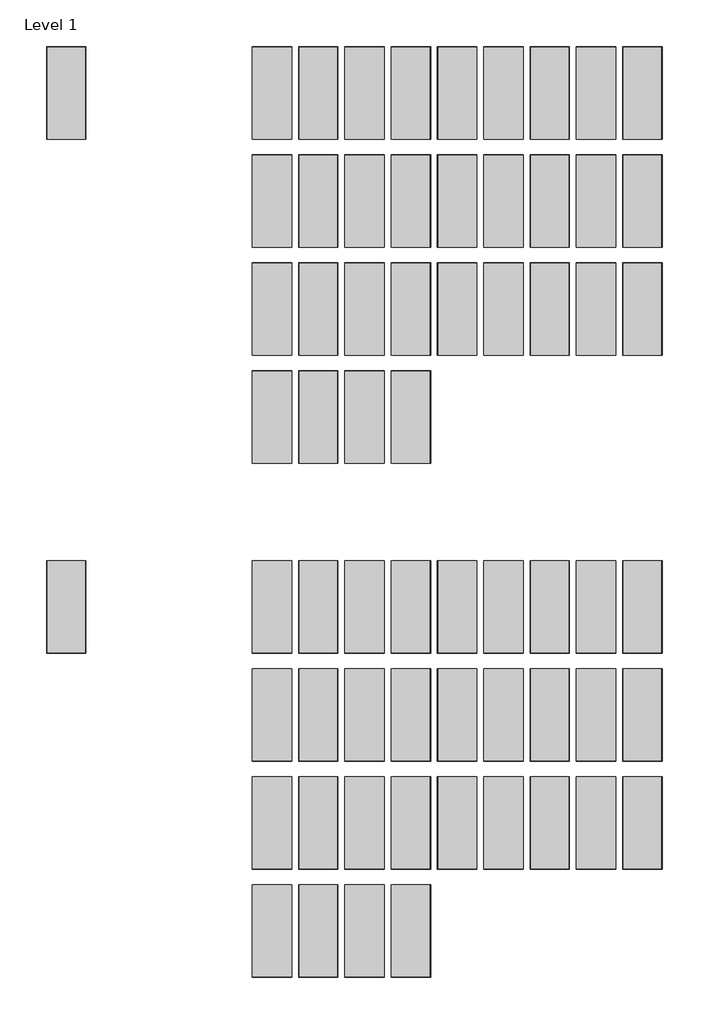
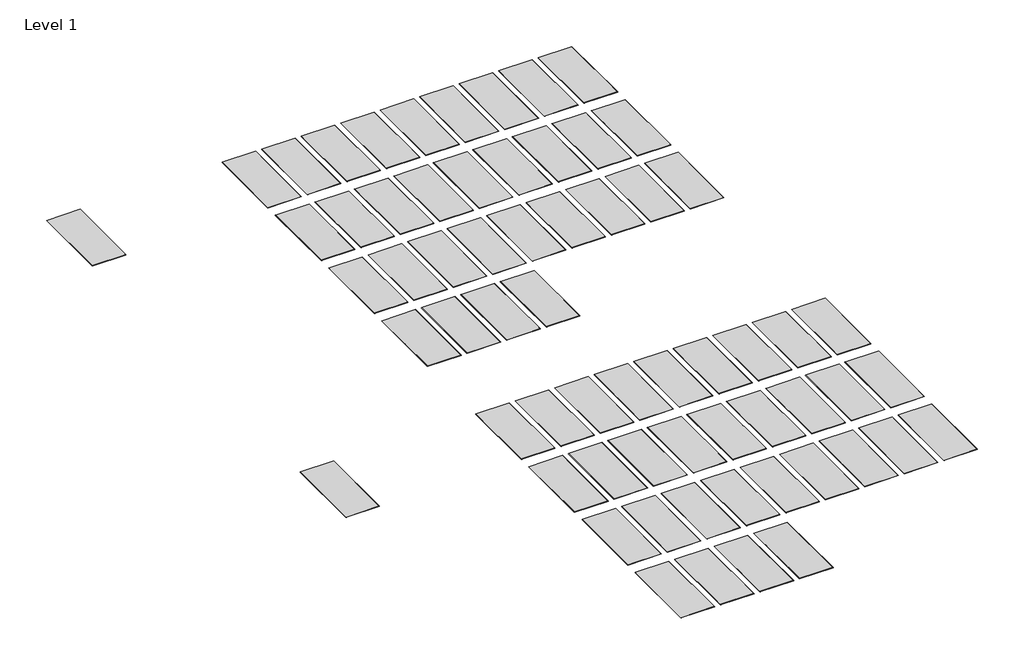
# One storey: 64 proxies.
"""IFC4 building model written with IfcOpenShell, lengths in millimetres."""

from ifc_helpers import new_model, si_unit, origin, place, context, project, spatial, transform, mapped, element, save
from components import stucco_a_101_frost_12_mm_5309bba6

model = new_model("IFC4")

# Units and contexts
model_context = context("Model", 3, world=origin())
ifc_project = project(units=[si_unit("LENGTHUNIT", "METRE", prefix="MILLI")], contexts=[model_context])

# Site, building, storey
site = spatial("IfcSite", under=ifc_project)
building = spatial("IfcBuilding", under=site)
storey = spatial("IfcBuildingStorey", under=building, Name="Level 1", Elevation=0.0)

# Proxies
placement = place(None, origin())
stucco_a_101_frost_12_mm_shape = stucco_a_101_frost_12_mm_5309bba6(model_context)
element("IfcBuildingElementProxy", 1, Name="Wall-Panel-Kirei_USA-EchoLine-Stucco_Panels : Stucco A - 108 Sunshine - 12 mm", ObjectType="Wall-Panel-Kirei_USA-EchoLine-Stucco_Panels : Stucco A - 108 Sunshine - 12 mm", at=placement, inside=storey, context=model_context, shape_type="MappedRepresentation", body=[
    mapped(stucco_a_101_frost_12_mm_shape, transform((1981.2, -18592.8, 0.0), x_axis=(1.0, 0.0, 0.0), y_axis=(0.0, 1.0, 0.0), z_axis=(0.0, 0.0, 1.0))),
])
element("IfcBuildingElementProxy", 2, Name="Wall-Panel-Kirei_USA-EchoLine-Stucco_Panels : Stucco A - 167 Cinnamon - 12 mm", ObjectType="Wall-Panel-Kirei_USA-EchoLine-Stucco_Panels : Stucco A - 167 Cinnamon - 12 mm", at=placement, inside=storey, context=model_context, shape_type="MappedRepresentation", body=[
    mapped(stucco_a_101_frost_12_mm_shape, transform((4724.4, -18592.8, 0.0), x_axis=(1.0, 0.0, 0.0), y_axis=(0.0, 1.0, 0.0), z_axis=(0.0, 0.0, 1.0))),
])
element("IfcBuildingElementProxy", 3, Name="Wall-Panel-Kirei_USA-EchoLine-Stucco_Panels : Stucco A - 274 Orchid - 12 mm", ObjectType="Wall-Panel-Kirei_USA-EchoLine-Stucco_Panels : Stucco A - 274 Orchid - 12 mm", at=placement, inside=storey, context=model_context, shape_type="MappedRepresentation", body=[
    mapped(stucco_a_101_frost_12_mm_shape, transform((8839.2, -18592.8, 0.0), x_axis=(1.0, 0.0, 0.0), y_axis=(0.0, 1.0, 0.0), z_axis=(0.0, 0.0, 1.0))),
])
element("IfcBuildingElementProxy", 4, Name="Wall-Panel-Kirei_USA-EchoLine-Stucco_Panels : Stucco A - 295 Mandarin - 12 mm", ObjectType="Wall-Panel-Kirei_USA-EchoLine-Stucco_Panels : Stucco A - 295 Mandarin - 12 mm", at=placement, inside=storey, context=model_context, shape_type="MappedRepresentation", body=[
    mapped(stucco_a_101_frost_12_mm_shape, transform((11582.4, -18592.8, 0.0), x_axis=(1.0, 0.0, 0.0), y_axis=(0.0, 1.0, 0.0), z_axis=(0.0, 0.0, 1.0))),
])
element("IfcBuildingElementProxy", 5, Name="Wall-Panel-Kirei_USA-EchoLine-Stucco_Panels : Stucco A - 330 Ivy - 12 mm", ObjectType="Wall-Panel-Kirei_USA-EchoLine-Stucco_Panels : Stucco A - 330 Ivy - 12 mm", at=placement, inside=storey, context=model_context, shape_type="MappedRepresentation", body=[
    mapped(stucco_a_101_frost_12_mm_shape, transform((609.6, -21793.2, 0.0), x_axis=(1.0, 0.0, 0.0), y_axis=(0.0, 1.0, 0.0), z_axis=(0.0, 0.0, 1.0))),
])
element("IfcBuildingElementProxy", 6, Name="Wall-Panel-Kirei_USA-EchoLine-Stucco_Panels : Stucco A - 338 Jade - 12 mm", ObjectType="Wall-Panel-Kirei_USA-EchoLine-Stucco_Panels : Stucco A - 338 Jade - 12 mm", at=placement, inside=storey, context=model_context, shape_type="MappedRepresentation", body=[
    mapped(stucco_a_101_frost_12_mm_shape, transform((1981.2, -21793.2, 0.0), x_axis=(1.0, 0.0, 0.0), y_axis=(0.0, 1.0, 0.0), z_axis=(0.0, 0.0, 1.0))),
])
element("IfcBuildingElementProxy", 7, Name="Wall-Panel-Kirei_USA-EchoLine-Stucco_Panels : Stucco A - 349 Vineyard - 12 mm", ObjectType="Wall-Panel-Kirei_USA-EchoLine-Stucco_Panels : Stucco A - 349 Vineyard - 12 mm", at=placement, inside=storey, context=model_context, shape_type="MappedRepresentation", body=[
    mapped(stucco_a_101_frost_12_mm_shape, transform((3352.8, -21793.2, 0.0), x_axis=(1.0, 0.0, 0.0), y_axis=(0.0, 1.0, 0.0), z_axis=(0.0, 0.0, 1.0))),
])
element("IfcBuildingElementProxy", 8, Name="Wall-Panel-Kirei_USA-EchoLine-Stucco_Panels : Stucco A - 551 Duck Egg - 12 mm", ObjectType="Wall-Panel-Kirei_USA-EchoLine-Stucco_Panels : Stucco A - 551 Duck Egg - 12 mm", at=placement, inside=storey, context=model_context, shape_type="MappedRepresentation", body=[
    mapped(stucco_a_101_frost_12_mm_shape, transform((10210.8, -24993.6, 0.0), x_axis=(1.0, 0.0, 0.0), y_axis=(0.0, 1.0, 0.0), z_axis=(0.0, 0.0, 1.0))),
])
element("IfcBuildingElementProxy", 9, Name="Wall-Panel-Kirei_USA-EchoLine-Stucco_Panels : Stucco A - 579 Pistachio - 12 mm", ObjectType="Wall-Panel-Kirei_USA-EchoLine-Stucco_Panels : Stucco A - 579 Pistachio - 12 mm", at=placement, inside=storey, context=model_context, shape_type="MappedRepresentation", body=[
    mapped(stucco_a_101_frost_12_mm_shape, transform((11582.4, -24993.6, 0.0), x_axis=(1.0, 0.0, 0.0), y_axis=(0.0, 1.0, 0.0), z_axis=(0.0, 0.0, 1.0))),
])
element("IfcBuildingElementProxy", 10, Name="Wall-Panel-Kirei_USA-EchoLine-Stucco_Panels : Stucco A - 633 Pacific - 12 mm", ObjectType="Wall-Panel-Kirei_USA-EchoLine-Stucco_Panels : Stucco A - 633 Pacific - 12 mm", at=placement, inside=storey, context=model_context, shape_type="MappedRepresentation", body=[
    mapped(stucco_a_101_frost_12_mm_shape, transform((1981.4491146, -28194.0, 0.0), x_axis=(1.0, 0.0, 0.0), y_axis=(0.0, 1.0, 0.0), z_axis=(0.0, 0.0, 1.0))),
])
element("IfcBuildingElementProxy", 11, Name="Wall-Panel-Kirei_USA-EchoLine-Stucco_Panels : Stucco A - 660 Coronet - 12 mm", ObjectType="Wall-Panel-Kirei_USA-EchoLine-Stucco_Panels : Stucco A - 660 Coronet - 12 mm", at=placement, inside=storey, context=model_context, shape_type="MappedRepresentation", body=[
    mapped(stucco_a_101_frost_12_mm_shape, transform((3353.0491146, -28194.0, 0.0), x_axis=(1.0, 0.0, 0.0), y_axis=(0.0, 1.0, 0.0), z_axis=(0.0, 0.0, 1.0))),
])
element("IfcBuildingElementProxy", 12, Name="Wall-Panel-Kirei_USA-EchoLine-Stucco_Panels : Stucco B - 108 Sunshine - 12 mm", ObjectType="Wall-Panel-Kirei_USA-EchoLine-Stucco_Panels : Stucco B - 108 Sunshine - 12 mm", at=placement, inside=storey, context=model_context, shape_type="MappedRepresentation", body=[
    mapped(stucco_a_101_frost_12_mm_shape, transform((1981.2, -33832.8, 0.0), x_axis=(1.0, 0.0, 0.0), y_axis=(0.0, 1.0, 0.0), z_axis=(0.0, 0.0, 1.0))),
])
element("IfcBuildingElementProxy", 13, Name="Wall-Panel-Kirei_USA-EchoLine-Stucco_Panels : Stucco B - 167 Cinnamon - 12 mm", ObjectType="Wall-Panel-Kirei_USA-EchoLine-Stucco_Panels : Stucco B - 167 Cinnamon - 12 mm", at=placement, inside=storey, context=model_context, shape_type="MappedRepresentation", body=[
    mapped(stucco_a_101_frost_12_mm_shape, transform((4724.4, -33832.8, 0.0), x_axis=(1.0, 0.0, 0.0), y_axis=(0.0, 1.0, 0.0), z_axis=(0.0, 0.0, 1.0))),
])
element("IfcBuildingElementProxy", 14, Name="Wall-Panel-Kirei_USA-EchoLine-Stucco_Panels : Stucco B - 274 Orchid - 12 mm", ObjectType="Wall-Panel-Kirei_USA-EchoLine-Stucco_Panels : Stucco B - 274 Orchid - 12 mm", at=placement, inside=storey, context=model_context, shape_type="MappedRepresentation", body=[
    mapped(stucco_a_101_frost_12_mm_shape, transform((8839.2, -33832.8, 0.0), x_axis=(1.0, 0.0, 0.0), y_axis=(0.0, 1.0, 0.0), z_axis=(0.0, 0.0, 1.0))),
])
element("IfcBuildingElementProxy", 15, Name="Wall-Panel-Kirei_USA-EchoLine-Stucco_Panels : Stucco B - 295 Mandarin - 12 mm", ObjectType="Wall-Panel-Kirei_USA-EchoLine-Stucco_Panels : Stucco B - 295 Mandarin - 12 mm", at=placement, inside=storey, context=model_context, shape_type="MappedRepresentation", body=[
    mapped(stucco_a_101_frost_12_mm_shape, transform((11582.4, -33832.8, 0.0), x_axis=(1.0, 0.0, 0.0), y_axis=(0.0, 1.0, 0.0), z_axis=(0.0, 0.0, 1.0))),
])
element("IfcBuildingElementProxy", 16, Name="Wall-Panel-Kirei_USA-EchoLine-Stucco_Panels : Stucco B - 330 Ivy - 12 mm", ObjectType="Wall-Panel-Kirei_USA-EchoLine-Stucco_Panels : Stucco B - 330 Ivy - 12 mm", at=placement, inside=storey, context=model_context, shape_type="MappedRepresentation", body=[
    mapped(stucco_a_101_frost_12_mm_shape, transform((609.6, -37033.2, 0.0), x_axis=(1.0, 0.0, 0.0), y_axis=(0.0, 1.0, 0.0), z_axis=(0.0, 0.0, 1.0))),
])
element("IfcBuildingElementProxy", 17, Name="Wall-Panel-Kirei_USA-EchoLine-Stucco_Panels : Stucco B - 338 Jade - 12 mm", ObjectType="Wall-Panel-Kirei_USA-EchoLine-Stucco_Panels : Stucco B - 338 Jade - 12 mm", at=placement, inside=storey, context=model_context, shape_type="MappedRepresentation", body=[
    mapped(stucco_a_101_frost_12_mm_shape, transform((1981.2, -37033.2, 0.0), x_axis=(1.0, 0.0, 0.0), y_axis=(0.0, 1.0, 0.0), z_axis=(0.0, 0.0, 1.0))),
])
element("IfcBuildingElementProxy", 18, Name="Wall-Panel-Kirei_USA-EchoLine-Stucco_Panels : Stucco B - 349 Vineyard - 12 mm", ObjectType="Wall-Panel-Kirei_USA-EchoLine-Stucco_Panels : Stucco B - 349 Vineyard - 12 mm", at=placement, inside=storey, context=model_context, shape_type="MappedRepresentation", body=[
    mapped(stucco_a_101_frost_12_mm_shape, transform((3352.8, -37033.2, 0.0), x_axis=(1.0, 0.0, 0.0), y_axis=(0.0, 1.0, 0.0), z_axis=(0.0, 0.0, 1.0))),
])
element("IfcBuildingElementProxy", 19, Name="Wall-Panel-Kirei_USA-EchoLine-Stucco_Panels : Stucco B - 551 Duck Egg - 12 mm", ObjectType="Wall-Panel-Kirei_USA-EchoLine-Stucco_Panels : Stucco B - 551 Duck Egg - 12 mm", at=placement, inside=storey, context=model_context, shape_type="MappedRepresentation", body=[
    mapped(stucco_a_101_frost_12_mm_shape, transform((10210.8, -40233.6, 0.0), x_axis=(1.0, 0.0, 0.0), y_axis=(0.0, 1.0, 0.0), z_axis=(0.0, 0.0, 1.0))),
])
element("IfcBuildingElementProxy", 20, Name="Wall-Panel-Kirei_USA-EchoLine-Stucco_Panels : Stucco B - 579 Pistachio - 12 mm", ObjectType="Wall-Panel-Kirei_USA-EchoLine-Stucco_Panels : Stucco B - 579 Pistachio - 12 mm", at=placement, inside=storey, context=model_context, shape_type="MappedRepresentation", body=[
    mapped(stucco_a_101_frost_12_mm_shape, transform((11582.4, -40233.6, 0.0), x_axis=(1.0, 0.0, 0.0), y_axis=(0.0, 1.0, 0.0), z_axis=(0.0, 0.0, 1.0))),
])
element("IfcBuildingElementProxy", 21, Name="Wall-Panel-Kirei_USA-EchoLine-Stucco_Panels : Stucco B - 633 Pacific - 12 mm", ObjectType="Wall-Panel-Kirei_USA-EchoLine-Stucco_Panels : Stucco B - 633 Pacific - 12 mm", at=placement, inside=storey, context=model_context, shape_type="MappedRepresentation", body=[
    mapped(stucco_a_101_frost_12_mm_shape, transform((1981.2, -43434.0, 0.0), x_axis=(1.0, 0.0, 0.0), y_axis=(0.0, 1.0, 0.0), z_axis=(0.0, 0.0, 1.0))),
])
element("IfcBuildingElementProxy", 22, Name="Wall-Panel-Kirei_USA-EchoLine-Stucco_Panels : Stucco B - 660 Coronet - 12 mm", ObjectType="Wall-Panel-Kirei_USA-EchoLine-Stucco_Panels : Stucco B - 660 Coronet - 12 mm", at=placement, inside=storey, context=model_context, shape_type="MappedRepresentation", body=[
    mapped(stucco_a_101_frost_12_mm_shape, transform((3352.8, -43434.0, 0.0), x_axis=(1.0, 0.0, 0.0), y_axis=(0.0, 1.0, 0.0), z_axis=(0.0, 0.0, 1.0))),
])
element("IfcBuildingElementProxy", 23, Name="Wall-Panel-Kirei_USA-EchoLine-Stucco_Panels : Stucco A - 101 Frost - 12 mm", ObjectType="Wall-Panel-Kirei_USA-EchoLine-Stucco_Panels : Stucco A - 101 Frost - 12 mm", at=placement, inside=storey, context=model_context, shape_type="MappedRepresentation", body=[
    mapped(stucco_a_101_frost_12_mm_shape, transform((609.6, -18592.8, 0.0), x_axis=(1.0, 0.0, 0.0), y_axis=(0.0, 1.0, 0.0), z_axis=(0.0, 0.0, 1.0))),
])
element("IfcBuildingElementProxy", 24, Name="Wall-Panel-Kirei_USA-EchoLine-Stucco_Panels : Stucco A - 101 Frost - 12 mm", ObjectType="Wall-Panel-Kirei_USA-EchoLine-Stucco_Panels : Stucco A - 101 Frost - 12 mm", at=placement, inside=storey, context=model_context, shape_type="MappedRepresentation", body=[
    mapped(stucco_a_101_frost_12_mm_shape, transform((-5486.4, -18592.8, 0.0), x_axis=(1.0, 0.0, 0.0), y_axis=(0.0, 1.0, 0.0), z_axis=(0.0, 0.0, 1.0))),
])
element("IfcBuildingElementProxy", 25, Name="Wall-Panel-Kirei_USA-EchoLine-Stucco_Panels : Stucco A - 124 Ochre - 12 mm", ObjectType="Wall-Panel-Kirei_USA-EchoLine-Stucco_Panels : Stucco A - 124 Ochre - 12 mm", at=placement, inside=storey, context=model_context, shape_type="MappedRepresentation", body=[
    mapped(stucco_a_101_frost_12_mm_shape, transform((3352.8, -18592.8, 0.0), x_axis=(1.0, 0.0, 0.0), y_axis=(0.0, 1.0, 0.0), z_axis=(0.0, 0.0, 1.0))),
])
element("IfcBuildingElementProxy", 26, Name="Wall-Panel-Kirei_USA-EchoLine-Stucco_Panels : Stucco A - 193 Rouge - 12 mm", ObjectType="Wall-Panel-Kirei_USA-EchoLine-Stucco_Panels : Stucco A - 193 Rouge - 12 mm", at=placement, inside=storey, context=model_context, shape_type="MappedRepresentation", body=[
    mapped(stucco_a_101_frost_12_mm_shape, transform((6096.0, -18592.8, 0.0), x_axis=(1.0, 0.0, 0.0), y_axis=(0.0, 1.0, 0.0), z_axis=(0.0, 0.0, 1.0))),
])
element("IfcBuildingElementProxy", 27, Name="Wall-Panel-Kirei_USA-EchoLine-Stucco_Panels : Stucco A - 269 Wine - 12 mm", ObjectType="Wall-Panel-Kirei_USA-EchoLine-Stucco_Panels : Stucco A - 269 Wine - 12 mm", at=placement, inside=storey, context=model_context, shape_type="MappedRepresentation", body=[
    mapped(stucco_a_101_frost_12_mm_shape, transform((7467.6, -18592.8, 0.0), x_axis=(1.0, 0.0, 0.0), y_axis=(0.0, 1.0, 0.0), z_axis=(0.0, 0.0, 1.0))),
])
element("IfcBuildingElementProxy", 28, Name="Wall-Panel-Kirei_USA-EchoLine-Stucco_Panels : Stucco A - 276 Lavender - 12 mm", ObjectType="Wall-Panel-Kirei_USA-EchoLine-Stucco_Panels : Stucco A - 276 Lavender - 12 mm", at=placement, inside=storey, context=model_context, shape_type="MappedRepresentation", body=[
    mapped(stucco_a_101_frost_12_mm_shape, transform((10210.8, -18592.8, 0.0), x_axis=(1.0, 0.0, 0.0), y_axis=(0.0, 1.0, 0.0), z_axis=(0.0, 0.0, 1.0))),
])
element("IfcBuildingElementProxy", 29, Name="Wall-Panel-Kirei_USA-EchoLine-Stucco_Panels : Stucco A - 365 Navy - 12 mm", ObjectType="Wall-Panel-Kirei_USA-EchoLine-Stucco_Panels : Stucco A - 365 Navy - 12 mm", at=placement, inside=storey, context=model_context, shape_type="MappedRepresentation", body=[
    mapped(stucco_a_101_frost_12_mm_shape, transform((4724.4, -21793.2, 0.0), x_axis=(1.0, 0.0, 0.0), y_axis=(0.0, 1.0, 0.0), z_axis=(0.0, 0.0, 1.0))),
])
element("IfcBuildingElementProxy", 30, Name="Wall-Panel-Kirei_USA-EchoLine-Stucco_Panels : Stucco A - 381 Lime Splice - 12 mm", ObjectType="Wall-Panel-Kirei_USA-EchoLine-Stucco_Panels : Stucco A - 381 Lime Splice - 12 mm", at=placement, inside=storey, context=model_context, shape_type="MappedRepresentation", body=[
    mapped(stucco_a_101_frost_12_mm_shape, transform((6096.0, -21793.2, 0.0), x_axis=(1.0, 0.0, 0.0), y_axis=(0.0, 1.0, 0.0), z_axis=(0.0, 0.0, 1.0))),
])
element("IfcBuildingElementProxy", 31, Name="Wall-Panel-Kirei_USA-EchoLine-Stucco_Panels : Stucco A - 384 Olive - 12 mm", ObjectType="Wall-Panel-Kirei_USA-EchoLine-Stucco_Panels : Stucco A - 384 Olive - 12 mm", at=placement, inside=storey, context=model_context, shape_type="MappedRepresentation", body=[
    mapped(stucco_a_101_frost_12_mm_shape, transform((7467.6, -21793.2, 0.0), x_axis=(1.0, 0.0, 0.0), y_axis=(0.0, 1.0, 0.0), z_axis=(0.0, 0.0, 1.0))),
])
element("IfcBuildingElementProxy", 32, Name="Wall-Panel-Kirei_USA-EchoLine-Stucco_Panels : Stucco A - 402 Pebble - 12 mm", ObjectType="Wall-Panel-Kirei_USA-EchoLine-Stucco_Panels : Stucco A - 402 Pebble - 12 mm", at=placement, inside=storey, context=model_context, shape_type="MappedRepresentation", body=[
    mapped(stucco_a_101_frost_12_mm_shape, transform((8839.2, -21793.2, 0.0), x_axis=(1.0, 0.0, 0.0), y_axis=(0.0, 1.0, 0.0), z_axis=(0.0, 0.0, 1.0))),
])
element("IfcBuildingElementProxy", 33, Name="Wall-Panel-Kirei_USA-EchoLine-Stucco_Panels : Stucco A - 442 Gray - 12 mm", ObjectType="Wall-Panel-Kirei_USA-EchoLine-Stucco_Panels : Stucco A - 442 Gray - 12 mm", at=placement, inside=storey, context=model_context, shape_type="MappedRepresentation", body=[
    mapped(stucco_a_101_frost_12_mm_shape, transform((10210.8, -21793.2, 0.0), x_axis=(1.0, 0.0, 0.0), y_axis=(0.0, 1.0, 0.0), z_axis=(0.0, 0.0, 1.0))),
])
element("IfcBuildingElementProxy", 34, Name="Wall-Panel-Kirei_USA-EchoLine-Stucco_Panels : Stucco A - 444 Smoke - 12 mm", ObjectType="Wall-Panel-Kirei_USA-EchoLine-Stucco_Panels : Stucco A - 444 Smoke - 12 mm", at=placement, inside=storey, context=model_context, shape_type="MappedRepresentation", body=[
    mapped(stucco_a_101_frost_12_mm_shape, transform((11582.4, -21793.2, 0.0), x_axis=(1.0, 0.0, 0.0), y_axis=(0.0, 1.0, 0.0), z_axis=(0.0, 0.0, 1.0))),
])
element("IfcBuildingElementProxy", 35, Name="Wall-Panel-Kirei_USA-EchoLine-Stucco_Panels : Stucco A - 447 Slate - 12 mm", ObjectType="Wall-Panel-Kirei_USA-EchoLine-Stucco_Panels : Stucco A - 447 Slate - 12 mm", at=placement, inside=storey, context=model_context, shape_type="MappedRepresentation", body=[
    mapped(stucco_a_101_frost_12_mm_shape, transform((609.6, -24993.6, 0.0), x_axis=(1.0, 0.0, 0.0), y_axis=(0.0, 1.0, 0.0), z_axis=(0.0, 0.0, 1.0))),
])
element("IfcBuildingElementProxy", 36, Name="Wall-Panel-Kirei_USA-EchoLine-Stucco_Panels : Stucco A - 454 Mushroom - 12 mm", ObjectType="Wall-Panel-Kirei_USA-EchoLine-Stucco_Panels : Stucco A - 454 Mushroom - 12 mm", at=placement, inside=storey, context=model_context, shape_type="MappedRepresentation", body=[
    mapped(stucco_a_101_frost_12_mm_shape, transform((1981.2, -24993.6, 0.0), x_axis=(1.0, 0.0, 0.0), y_axis=(0.0, 1.0, 0.0), z_axis=(0.0, 0.0, 1.0))),
])
element("IfcBuildingElementProxy", 37, Name="Wall-Panel-Kirei_USA-EchoLine-Stucco_Panels : Stucco A - 468 Vanilla - 12 mm", ObjectType="Wall-Panel-Kirei_USA-EchoLine-Stucco_Panels : Stucco A - 468 Vanilla - 12 mm", at=placement, inside=storey, context=model_context, shape_type="MappedRepresentation", body=[
    mapped(stucco_a_101_frost_12_mm_shape, transform((3352.8, -24993.6, 0.0), x_axis=(1.0, 0.0, 0.0), y_axis=(0.0, 1.0, 0.0), z_axis=(0.0, 0.0, 1.0))),
])
element("IfcBuildingElementProxy", 38, Name="Wall-Panel-Kirei_USA-EchoLine-Stucco_Panels : Stucco A - 487 Blush - 12 mm", ObjectType="Wall-Panel-Kirei_USA-EchoLine-Stucco_Panels : Stucco A - 487 Blush - 12 mm", at=placement, inside=storey, context=model_context, shape_type="MappedRepresentation", body=[
    mapped(stucco_a_101_frost_12_mm_shape, transform((4724.4, -24993.6, 0.0), x_axis=(1.0, 0.0, 0.0), y_axis=(0.0, 1.0, 0.0), z_axis=(0.0, 0.0, 1.0))),
])
element("IfcBuildingElementProxy", 39, Name="Wall-Panel-Kirei_USA-EchoLine-Stucco_Panels : Stucco A - 500 White - 12 mm", ObjectType="Wall-Panel-Kirei_USA-EchoLine-Stucco_Panels : Stucco A - 500 White - 12 mm", at=placement, inside=storey, context=model_context, shape_type="MappedRepresentation", body=[
    mapped(stucco_a_101_frost_12_mm_shape, transform((6096.0, -24993.6, 0.0), x_axis=(1.0, 0.0, 0.0), y_axis=(0.0, 1.0, 0.0), z_axis=(0.0, 0.0, 1.0))),
])
element("IfcBuildingElementProxy", 40, Name="Wall-Panel-Kirei_USA-EchoLine-Stucco_Panels : Stucco A - 542 Black - 12 mm", ObjectType="Wall-Panel-Kirei_USA-EchoLine-Stucco_Panels : Stucco A - 542 Black - 12 mm", at=placement, inside=storey, context=model_context, shape_type="MappedRepresentation", body=[
    mapped(stucco_a_101_frost_12_mm_shape, transform((7467.6, -24993.6, 0.0), x_axis=(1.0, 0.0, 0.0), y_axis=(0.0, 1.0, 0.0), z_axis=(0.0, 0.0, 1.0))),
])
element("IfcBuildingElementProxy", 41, Name="Wall-Panel-Kirei_USA-EchoLine-Stucco_Panels : Stucco A - 550 Onyx - 12 mm", ObjectType="Wall-Panel-Kirei_USA-EchoLine-Stucco_Panels : Stucco A - 550 Onyx - 12 mm", at=placement, inside=storey, context=model_context, shape_type="MappedRepresentation", body=[
    mapped(stucco_a_101_frost_12_mm_shape, transform((8839.2, -24993.6, 0.0), x_axis=(1.0, 0.0, 0.0), y_axis=(0.0, 1.0, 0.0), z_axis=(0.0, 0.0, 1.0))),
])
element("IfcBuildingElementProxy", 42, Name="Wall-Panel-Kirei_USA-EchoLine-Stucco_Panels : Stucco A - 580 Sage - 12 mm", ObjectType="Wall-Panel-Kirei_USA-EchoLine-Stucco_Panels : Stucco A - 580 Sage - 12 mm", at=placement, inside=storey, context=model_context, shape_type="MappedRepresentation", body=[
    mapped(stucco_a_101_frost_12_mm_shape, transform((609.8491146, -28194.0, 0.0), x_axis=(1.0, 0.0, 0.0), y_axis=(0.0, 1.0, 0.0), z_axis=(0.0, 0.0, 1.0))),
])
element("IfcBuildingElementProxy", 43, Name="Wall-Panel-Kirei_USA-EchoLine-Stucco_Panels : Stucco A - 908 Cream - 12 mm", ObjectType="Wall-Panel-Kirei_USA-EchoLine-Stucco_Panels : Stucco A - 908 Cream - 12 mm", at=placement, inside=storey, context=model_context, shape_type="MappedRepresentation", body=[
    mapped(stucco_a_101_frost_12_mm_shape, transform((4724.6491146, -28194.0, 0.0), x_axis=(1.0, 0.0, 0.0), y_axis=(0.0, 1.0, 0.0), z_axis=(0.0, 0.0, 1.0))),
])
element("IfcBuildingElementProxy", 44, Name="Wall-Panel-Kirei_USA-EchoLine-Stucco_Panels : Stucco B - 101 Frost - 12 mm", ObjectType="Wall-Panel-Kirei_USA-EchoLine-Stucco_Panels : Stucco B - 101 Frost - 12 mm", at=placement, inside=storey, context=model_context, shape_type="MappedRepresentation", body=[
    mapped(stucco_a_101_frost_12_mm_shape, transform((609.6, -33832.8, 0.0), x_axis=(1.0, 0.0, 0.0), y_axis=(0.0, 1.0, 0.0), z_axis=(0.0, 0.0, 1.0))),
])
element("IfcBuildingElementProxy", 45, Name="Wall-Panel-Kirei_USA-EchoLine-Stucco_Panels : Stucco B - 101 Frost - 12 mm", ObjectType="Wall-Panel-Kirei_USA-EchoLine-Stucco_Panels : Stucco B - 101 Frost - 12 mm", at=placement, inside=storey, context=model_context, shape_type="MappedRepresentation", body=[
    mapped(stucco_a_101_frost_12_mm_shape, transform((-5486.4, -33832.8, 0.0), x_axis=(1.0, 0.0, 0.0), y_axis=(0.0, 1.0, 0.0), z_axis=(0.0, 0.0, 1.0))),
])
element("IfcBuildingElementProxy", 46, Name="Wall-Panel-Kirei_USA-EchoLine-Stucco_Panels : Stucco B - 124 Ochre - 12 mm", ObjectType="Wall-Panel-Kirei_USA-EchoLine-Stucco_Panels : Stucco B - 124 Ochre - 12 mm", at=placement, inside=storey, context=model_context, shape_type="MappedRepresentation", body=[
    mapped(stucco_a_101_frost_12_mm_shape, transform((3352.8, -33832.8, 0.0), x_axis=(1.0, 0.0, 0.0), y_axis=(0.0, 1.0, 0.0), z_axis=(0.0, 0.0, 1.0))),
])
element("IfcBuildingElementProxy", 47, Name="Wall-Panel-Kirei_USA-EchoLine-Stucco_Panels : Stucco B - 193 Rouge - 12 mm", ObjectType="Wall-Panel-Kirei_USA-EchoLine-Stucco_Panels : Stucco B - 193 Rouge - 12 mm", at=placement, inside=storey, context=model_context, shape_type="MappedRepresentation", body=[
    mapped(stucco_a_101_frost_12_mm_shape, transform((6096.0, -33832.8, 0.0), x_axis=(1.0, 0.0, 0.0), y_axis=(0.0, 1.0, 0.0), z_axis=(0.0, 0.0, 1.0))),
])
element("IfcBuildingElementProxy", 48, Name="Wall-Panel-Kirei_USA-EchoLine-Stucco_Panels : Stucco B - 269 Wine - 12 mm", ObjectType="Wall-Panel-Kirei_USA-EchoLine-Stucco_Panels : Stucco B - 269 Wine - 12 mm", at=placement, inside=storey, context=model_context, shape_type="MappedRepresentation", body=[
    mapped(stucco_a_101_frost_12_mm_shape, transform((7467.6, -33832.8, 0.0), x_axis=(1.0, 0.0, 0.0), y_axis=(0.0, 1.0, 0.0), z_axis=(0.0, 0.0, 1.0))),
])
element("IfcBuildingElementProxy", 49, Name="Wall-Panel-Kirei_USA-EchoLine-Stucco_Panels : Stucco B - 276 Lavender - 12 mm", ObjectType="Wall-Panel-Kirei_USA-EchoLine-Stucco_Panels : Stucco B - 276 Lavender - 12 mm", at=placement, inside=storey, context=model_context, shape_type="MappedRepresentation", body=[
    mapped(stucco_a_101_frost_12_mm_shape, transform((10210.8, -33832.8, 0.0), x_axis=(1.0, 0.0, 0.0), y_axis=(0.0, 1.0, 0.0), z_axis=(0.0, 0.0, 1.0))),
])
element("IfcBuildingElementProxy", 50, Name="Wall-Panel-Kirei_USA-EchoLine-Stucco_Panels : Stucco B - 365 Navy - 12 mm", ObjectType="Wall-Panel-Kirei_USA-EchoLine-Stucco_Panels : Stucco B - 365 Navy - 12 mm", at=placement, inside=storey, context=model_context, shape_type="MappedRepresentation", body=[
    mapped(stucco_a_101_frost_12_mm_shape, transform((4724.4, -37033.2, 0.0), x_axis=(1.0, 0.0, 0.0), y_axis=(0.0, 1.0, 0.0), z_axis=(0.0, 0.0, 1.0))),
])
element("IfcBuildingElementProxy", 51, Name="Wall-Panel-Kirei_USA-EchoLine-Stucco_Panels : Stucco B - 381 Lime Splice - 12 mm", ObjectType="Wall-Panel-Kirei_USA-EchoLine-Stucco_Panels : Stucco B - 381 Lime Splice - 12 mm", at=placement, inside=storey, context=model_context, shape_type="MappedRepresentation", body=[
    mapped(stucco_a_101_frost_12_mm_shape, transform((6096.0, -37033.2, 0.0), x_axis=(1.0, 0.0, 0.0), y_axis=(0.0, 1.0, 0.0), z_axis=(0.0, 0.0, 1.0))),
])
element("IfcBuildingElementProxy", 52, Name="Wall-Panel-Kirei_USA-EchoLine-Stucco_Panels : Stucco B - 384 Olive - 12 mm", ObjectType="Wall-Panel-Kirei_USA-EchoLine-Stucco_Panels : Stucco B - 384 Olive - 12 mm", at=placement, inside=storey, context=model_context, shape_type="MappedRepresentation", body=[
    mapped(stucco_a_101_frost_12_mm_shape, transform((7467.6, -37033.2, 0.0), x_axis=(1.0, 0.0, 0.0), y_axis=(0.0, 1.0, 0.0), z_axis=(0.0, 0.0, 1.0))),
])
element("IfcBuildingElementProxy", 53, Name="Wall-Panel-Kirei_USA-EchoLine-Stucco_Panels : Stucco B - 402 Pebble - 12 mm", ObjectType="Wall-Panel-Kirei_USA-EchoLine-Stucco_Panels : Stucco B - 402 Pebble - 12 mm", at=placement, inside=storey, context=model_context, shape_type="MappedRepresentation", body=[
    mapped(stucco_a_101_frost_12_mm_shape, transform((8839.2, -37033.2, 0.0), x_axis=(1.0, 0.0, 0.0), y_axis=(0.0, 1.0, 0.0), z_axis=(0.0, 0.0, 1.0))),
])
element("IfcBuildingElementProxy", 54, Name="Wall-Panel-Kirei_USA-EchoLine-Stucco_Panels : Stucco B - 442 Gray - 12 mm", ObjectType="Wall-Panel-Kirei_USA-EchoLine-Stucco_Panels : Stucco B - 442 Gray - 12 mm", at=placement, inside=storey, context=model_context, shape_type="MappedRepresentation", body=[
    mapped(stucco_a_101_frost_12_mm_shape, transform((10210.8, -37033.2, 0.0), x_axis=(1.0, 0.0, 0.0), y_axis=(0.0, 1.0, 0.0), z_axis=(0.0, 0.0, 1.0))),
])
element("IfcBuildingElementProxy", 55, Name="Wall-Panel-Kirei_USA-EchoLine-Stucco_Panels : Stucco B - 444 Smoke - 12 mm", ObjectType="Wall-Panel-Kirei_USA-EchoLine-Stucco_Panels : Stucco B - 444 Smoke - 12 mm", at=placement, inside=storey, context=model_context, shape_type="MappedRepresentation", body=[
    mapped(stucco_a_101_frost_12_mm_shape, transform((11582.4, -37033.2, 0.0), x_axis=(1.0, 0.0, 0.0), y_axis=(0.0, 1.0, 0.0), z_axis=(0.0, 0.0, 1.0))),
])
element("IfcBuildingElementProxy", 56, Name="Wall-Panel-Kirei_USA-EchoLine-Stucco_Panels : Stucco B - 447 Slate - 12 mm", ObjectType="Wall-Panel-Kirei_USA-EchoLine-Stucco_Panels : Stucco B - 447 Slate - 12 mm", at=placement, inside=storey, context=model_context, shape_type="MappedRepresentation", body=[
    mapped(stucco_a_101_frost_12_mm_shape, transform((609.6, -40233.6, 0.0), x_axis=(1.0, 0.0, 0.0), y_axis=(0.0, 1.0, 0.0), z_axis=(0.0, 0.0, 1.0))),
])
element("IfcBuildingElementProxy", 57, Name="Wall-Panel-Kirei_USA-EchoLine-Stucco_Panels : Stucco B - 454 Mushroom - 12 mm", ObjectType="Wall-Panel-Kirei_USA-EchoLine-Stucco_Panels : Stucco B - 454 Mushroom - 12 mm", at=placement, inside=storey, context=model_context, shape_type="MappedRepresentation", body=[
    mapped(stucco_a_101_frost_12_mm_shape, transform((1981.2, -40233.6, 0.0), x_axis=(1.0, 0.0, 0.0), y_axis=(0.0, 1.0, 0.0), z_axis=(0.0, 0.0, 1.0))),
])
element("IfcBuildingElementProxy", 58, Name="Wall-Panel-Kirei_USA-EchoLine-Stucco_Panels : Stucco B - 468 Vanilla - 12 mm", ObjectType="Wall-Panel-Kirei_USA-EchoLine-Stucco_Panels : Stucco B - 468 Vanilla - 12 mm", at=placement, inside=storey, context=model_context, shape_type="MappedRepresentation", body=[
    mapped(stucco_a_101_frost_12_mm_shape, transform((3352.8, -40233.6, 0.0), x_axis=(1.0, 0.0, 0.0), y_axis=(0.0, 1.0, 0.0), z_axis=(0.0, 0.0, 1.0))),
])
element("IfcBuildingElementProxy", 59, Name="Wall-Panel-Kirei_USA-EchoLine-Stucco_Panels : Stucco B - 487 Blush - 12 mm", ObjectType="Wall-Panel-Kirei_USA-EchoLine-Stucco_Panels : Stucco B - 487 Blush - 12 mm", at=placement, inside=storey, context=model_context, shape_type="MappedRepresentation", body=[
    mapped(stucco_a_101_frost_12_mm_shape, transform((4724.4, -40233.6, 0.0), x_axis=(1.0, 0.0, 0.0), y_axis=(0.0, 1.0, 0.0), z_axis=(0.0, 0.0, 1.0))),
])
element("IfcBuildingElementProxy", 60, Name="Wall-Panel-Kirei_USA-EchoLine-Stucco_Panels : Stucco B - 500 White - 12 mm", ObjectType="Wall-Panel-Kirei_USA-EchoLine-Stucco_Panels : Stucco B - 500 White - 12 mm", at=placement, inside=storey, context=model_context, shape_type="MappedRepresentation", body=[
    mapped(stucco_a_101_frost_12_mm_shape, transform((6096.0, -40233.6, 0.0), x_axis=(1.0, 0.0, 0.0), y_axis=(0.0, 1.0, 0.0), z_axis=(0.0, 0.0, 1.0))),
])
element("IfcBuildingElementProxy", 61, Name="Wall-Panel-Kirei_USA-EchoLine-Stucco_Panels : Stucco B - 542 Black - 12 mm", ObjectType="Wall-Panel-Kirei_USA-EchoLine-Stucco_Panels : Stucco B - 542 Black - 12 mm", at=placement, inside=storey, context=model_context, shape_type="MappedRepresentation", body=[
    mapped(stucco_a_101_frost_12_mm_shape, transform((7467.6, -40233.6, 0.0), x_axis=(1.0, 0.0, 0.0), y_axis=(0.0, 1.0, 0.0), z_axis=(0.0, 0.0, 1.0))),
])
element("IfcBuildingElementProxy", 62, Name="Wall-Panel-Kirei_USA-EchoLine-Stucco_Panels : Stucco B - 550 Onyx - 12 mm", ObjectType="Wall-Panel-Kirei_USA-EchoLine-Stucco_Panels : Stucco B - 550 Onyx - 12 mm", at=placement, inside=storey, context=model_context, shape_type="MappedRepresentation", body=[
    mapped(stucco_a_101_frost_12_mm_shape, transform((8839.2, -40233.6, 0.0), x_axis=(1.0, 0.0, 0.0), y_axis=(0.0, 1.0, 0.0), z_axis=(0.0, 0.0, 1.0))),
])
element("IfcBuildingElementProxy", 63, Name="Wall-Panel-Kirei_USA-EchoLine-Stucco_Panels : Stucco B - 580 Sage - 12 mm", ObjectType="Wall-Panel-Kirei_USA-EchoLine-Stucco_Panels : Stucco B - 580 Sage - 12 mm", at=placement, inside=storey, context=model_context, shape_type="MappedRepresentation", body=[
    mapped(stucco_a_101_frost_12_mm_shape, transform((609.6, -43434.0, 0.0), x_axis=(1.0, 0.0, 0.0), y_axis=(0.0, 1.0, 0.0), z_axis=(0.0, 0.0, 1.0))),
])
element("IfcBuildingElementProxy", 64, Name="Wall-Panel-Kirei_USA-EchoLine-Stucco_Panels : Stucco B - 908 Cream - 12 mm", ObjectType="Wall-Panel-Kirei_USA-EchoLine-Stucco_Panels : Stucco B - 908 Cream - 12 mm", at=placement, inside=storey, context=model_context, shape_type="MappedRepresentation", body=[
    mapped(stucco_a_101_frost_12_mm_shape, transform((4724.4, -43434.0, 0.0), x_axis=(1.0, 0.0, 0.0), y_axis=(0.0, 1.0, 0.0), z_axis=(0.0, 0.0, 1.0))),
])

save(model, "model.ifc")
